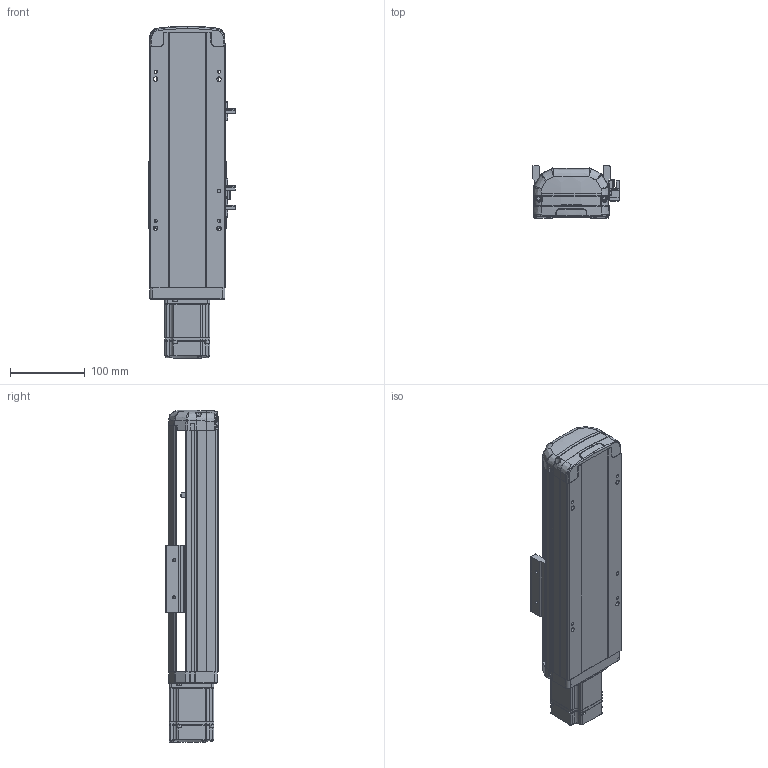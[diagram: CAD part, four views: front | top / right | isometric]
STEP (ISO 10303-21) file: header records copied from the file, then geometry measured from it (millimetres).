
FILE_DESCRIPTION (( 'STEP AP214' ), '1' );
FILE_NAME ('RTH10-XX-100-E-M20-C4.STEP', '2025-10-24T10:41:17', ( '' ), ( '' ), 'SwSTEP 2.0', 'SolidWorks 2018', '' );
FILE_SCHEMA (( 'AUTOMOTIVE_DESIGN' ));
Length unit declared in the file: millimetre
Products named in the file (9): N_200W-1^RTH10-XX-XX-E-M20-C4（方程式）; N_RTH12-GY-001P^RTH10-XX-XX-E-M20-C4（方程式）; RTH10-XX-100-E-M20-C4; N_RTH12-E-008-M20电机板^RTH10-XX-XX-E-M20-C4（方程式）; N_RTH12-E-007P-奻裔^RTH10-XX-XX-E-M20-C4ㄗ源最宒ㄘ; N_RTH12-GY-004-滑座^RTH10-XX-XX-E-M20-C4（方程式）; N_OMRON EE-SX672 換覜ん^RTH10-XX-XX-E-M20-C4ㄗ源最宒ㄘ; N_RTH12-E-011P-臏倰第菁釱^RTH10-XX-XX-E-M20-C4ㄗ源最宒ㄘ; N_RTH13-L-012感应片外置^RTH10-XX-XX-E-M20-C4（方程式）
Assembly tree (10 placements, depth 2):
  RTH10-XX-100-E-M20-C4
    N_RTH12-E-011P-臏倰第菁釱^RTH10-XX-XX-E-M20-C4ㄗ源最宒ㄘ
    N_RTH13-L-012感应片外置^RTH10-XX-XX-E-M20-C4（方程式）
    N_OMRON EE-SX672 換覜ん^RTH10-XX-XX-E-M20-C4ㄗ源最宒ㄘ  x3
    N_RTH12-E-007P-奻裔^RTH10-XX-XX-E-M20-C4ㄗ源最宒ㄘ
    N_RTH12-GY-001P^RTH10-XX-XX-E-M20-C4（方程式）
    N_RTH12-GY-004-滑座^RTH10-XX-XX-E-M20-C4（方程式）
    N_200W-1^RTH10-XX-XX-E-M20-C4（方程式）
    N_RTH12-E-008-M20电机板^RTH10-XX-XX-E-M20-C4（方程式）
Bounding box: 116.5 x 70 x 445.31 mm (x, y, z)
Volume: 1787568.5 mm3; surface area: 302502.8 mm2
Topology: 9 solids, 11 shells, 1943 faces, 5374 edges, 3526 vertices
Faces by surface type: plane 993, bspline 472, cylinder 443, cone 33, torus 2
Entity records: 57790 total; most frequent: CARTESIAN_POINT 22857, ORIENTED_EDGE 7828, DIRECTION 6016, EDGE_CURVE 3920, VERTEX_POINT 2570, VECTOR 2142, LINE 2142, AXIS2_PLACEMENT_3D 1937
